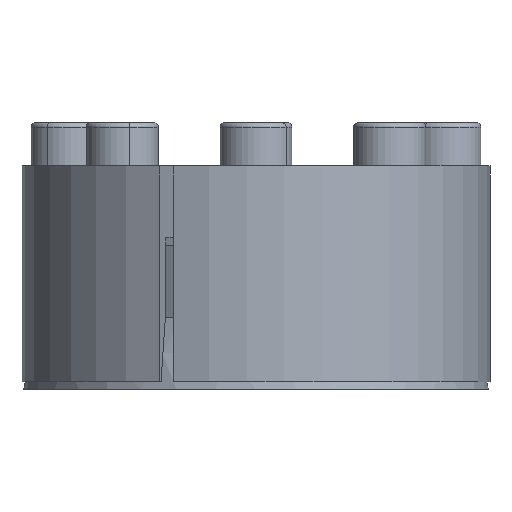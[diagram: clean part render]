
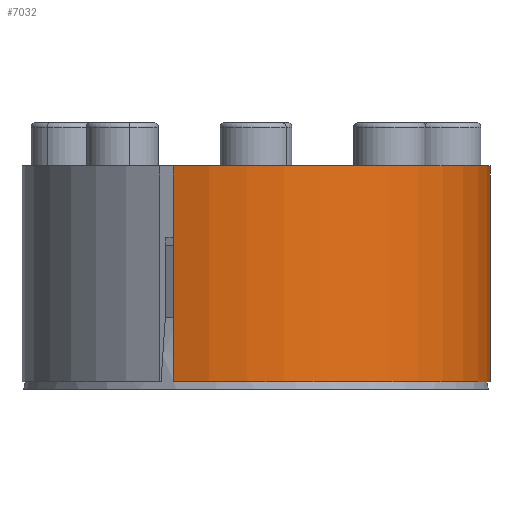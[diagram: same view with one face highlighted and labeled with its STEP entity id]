
A CAD part, front view. The second image highlights one B-rep face of the part: STEP entity #7032.
In plain terms, the highlighted cylindrical face has radius 32.5 mm (diameter 65 mm), a partial arc.
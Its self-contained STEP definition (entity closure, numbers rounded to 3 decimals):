
#192 = VERTEX_POINT ( 'NONE', #4700 ) ;
#193 = DIRECTION ( 'NONE',  ( 1., 0., 0. ) ) ;
#596 = CARTESIAN_POINT ( 'NONE',  ( 0., 0., 1.011 ) ) ;
#1506 = LINE ( 'NONE', #2216, #6747 ) ;
#1566 = LINE ( 'NONE', #7772, #11659 ) ;
#1777 = ORIENTED_EDGE ( 'NONE', *, *, #8178, .T. ) ;
#2216 = CARTESIAN_POINT ( 'NONE',  ( -11.507, -30.395, 1.011 ) ) ;
#2261 = CIRCLE ( 'NONE', #6674, 32.5 ) ;
#2391 = ORIENTED_EDGE ( 'NONE', *, *, #9495, .F. ) ;
#2427 = EDGE_CURVE ( 'NONE', #4678, #5903, #2463, .T. ) ;
#2463 = CIRCLE ( 'NONE', #7766, 32.5 ) ;
#2689 = CARTESIAN_POINT ( 'NONE',  ( 32.5, 0., 31.011 ) ) ;
#3744 = DIRECTION ( 'NONE',  ( 0., 0., -1. ) ) ;
#3875 = DIRECTION ( 'NONE',  ( 0., 0., 1. ) ) ;
#4678 = VERTEX_POINT ( 'NONE', #2689 ) ;
#4700 = CARTESIAN_POINT ( 'NONE',  ( -11.507, -30.395, 1.011 ) ) ;
#5045 = EDGE_CURVE ( 'NONE', #5903, #192, #1506, .T. ) ;
#5546 = DIRECTION ( 'NONE',  ( -1., 0., 0. ) ) ;
#5903 = VERTEX_POINT ( 'NONE', #7016 ) ;
#6086 = DIRECTION ( 'NONE',  ( 0., 0., -1. ) ) ;
#6450 = DIRECTION ( 'NONE',  ( 0., 0., 1. ) ) ;
#6674 = AXIS2_PLACEMENT_3D ( 'NONE', #11894, #6086, #193 ) ;
#6747 = VECTOR ( 'NONE', #9068, 1000. ) ;
#6866 = VERTEX_POINT ( 'NONE', #10185 ) ;
#7016 = CARTESIAN_POINT ( 'NONE',  ( -11.507, -30.395, 31.011 ) ) ;
#7032 = ADVANCED_FACE ( 'NONE', ( #10108 ), #11447, .T. ) ;
#7235 = EDGE_LOOP ( 'NONE', ( #2391, #1777, #8679, #11358 ) ) ;
#7766 = AXIS2_PLACEMENT_3D ( 'NONE', #9600, #3744, #10575 ) ;
#7772 = CARTESIAN_POINT ( 'NONE',  ( 32.5, 0., 1.011 ) ) ;
#8178 = EDGE_CURVE ( 'NONE', #6866, #4678, #1566, .T. ) ;
#8679 = ORIENTED_EDGE ( 'NONE', *, *, #2427, .T. ) ;
#9068 = DIRECTION ( 'NONE',  ( 0., 0., -1. ) ) ;
#9426 = AXIS2_PLACEMENT_3D ( 'NONE', #596, #6450, #5546 ) ;
#9495 = EDGE_CURVE ( 'NONE', #6866, #192, #2261, .T. ) ;
#9600 = CARTESIAN_POINT ( 'NONE',  ( 0., 0., 31.011 ) ) ;
#10108 = FACE_OUTER_BOUND ( 'NONE', #7235, .T. ) ;
#10185 = CARTESIAN_POINT ( 'NONE',  ( 32.5, 0., 1.011 ) ) ;
#10575 = DIRECTION ( 'NONE',  ( 1., 0., 0. ) ) ;
#11358 = ORIENTED_EDGE ( 'NONE', *, *, #5045, .T. ) ;
#11447 = CYLINDRICAL_SURFACE ( 'NONE', #9426, 32.5 ) ;
#11659 = VECTOR ( 'NONE', #3875, 1000. ) ;
#11894 = CARTESIAN_POINT ( 'NONE',  ( 0., 0., 1.011 ) ) ;
